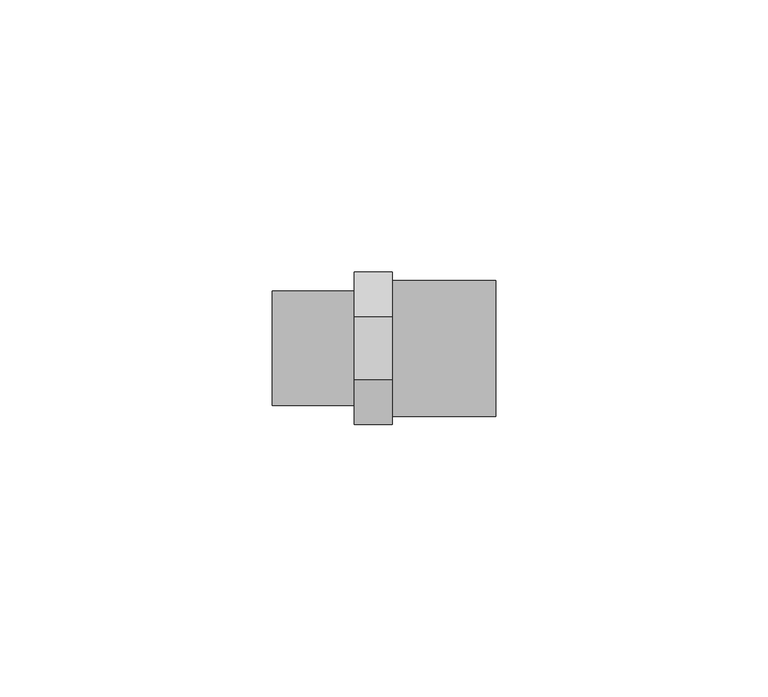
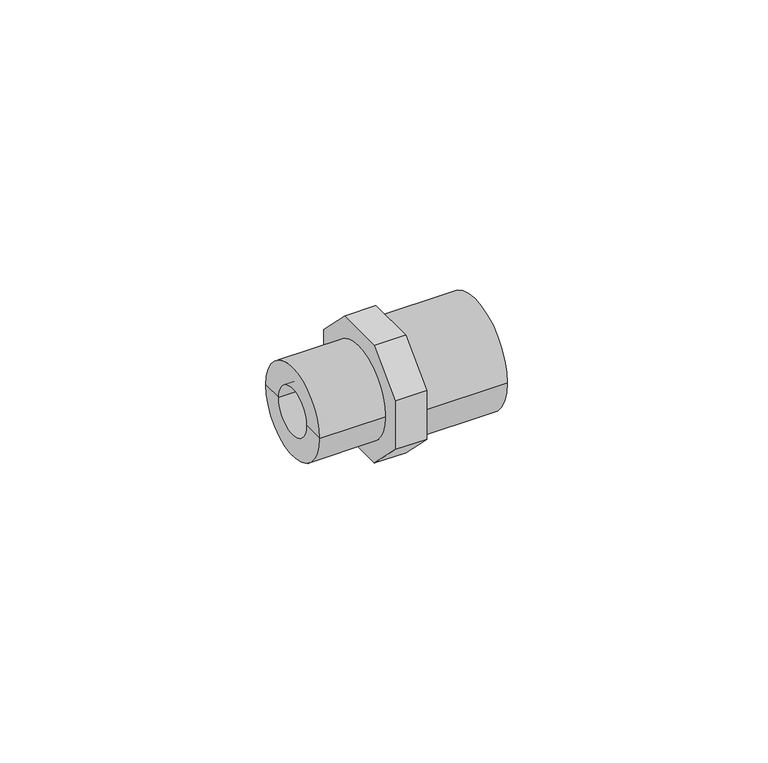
"""IFC4 building model written with IfcOpenShell, lengths in millimetres: pipe fitting geometry, Durapipe_PipeFitting_PVC_MaleThreadedAdaptors : 25 x 20 x G1⁄2."""

from ifc_helpers import new_model, si_unit, point, frame, origin, origin_2d, place, context, project, spatial, polyline, circle_curve, trimmed, segment, composite_curve, outline, extrude, source, transform, mapped, element, save
from ifc_brep_helpers import plane_surface, cylinder_surface, revolved_surface, advanced_brep


def pipe_fitting_63f056da(model_context):
    return source(origin(), model_context, "Body", "SolidModel", [
        extrude(outline(polyline([(14.0, 5.7989899), (14.0, -5.7989899), (5.7989899, -14.0), (-5.7989899, -14.0), (-14.0, -5.7989899), (-14.0, 5.7989899), (-5.7989899, 14.0), (5.7989899, 14.0), (14.0, 5.7989899)]), holes=[composite_curve([segment(trimmed(circle_curve(origin_2d(), 5.5), [point((5.5, 0.0))], [point((-5.5, 0.0))], True, "CARTESIAN"), True, "CONTINUOUS"), segment(trimmed(circle_curve(origin_2d(), 5.5), [point((-5.5, 0.0))], [point((5.5, 0.0))], True, "CARTESIAN"), True, "CONTINUOUS")], self_intersect=False)]), frame((-7.0, 0.0, 0.0), z_axis=(1.0, 0.0, 0.0), x_axis=(0.0, 1.0, 0.0)), (0.0, 0.0, 1.0), 7.0),
        advanced_brep(
        [(0.0, -12.5, 0.0), (0.0, 12.5, 0.0), (19.0, 12.5, 0.0), (19.0, -12.5, 0.0), (19.0, 10.0, 0.0), (19.0, -10.0, 0.0), (0.0, 0.0, 0.0), (3.0, 10.0, 0.0), (3.0, -10.0, 0.0), (3.0, 0.0, 0.0)],
        [
            (0, 1, circle_curve(frame((0.0, 0.0, 0.0), z_axis=(1.0, 0.0, 0.0), x_axis=(0.0, 1.0, 0.0)), 12.5)),
            (1, 2),
            (2, 3, circle_curve(frame((19.0, 0.0, 0.0), z_axis=(-1.0, 0.0, 0.0), x_axis=(0.0, 1.0, 0.0)), 12.5)),
            (3, 0),
            (1, 0, circle_curve(frame((0.0, 0.0, 0.0), z_axis=(1.0, 0.0, 0.0), x_axis=(0.0, 1.0, 0.0)), 12.5)),
            (3, 2, circle_curve(frame((19.0, 0.0, 0.0), z_axis=(-1.0, 0.0, 0.0), x_axis=(0.0, 1.0, 0.0)), 12.5)),
            (2, 4),
            (4, 5, circle_curve(frame((19.0, 0.0, 0.0), z_axis=(-1.0, 0.0, 0.0), x_axis=(0.0, 1.0, 0.0)), 10.0)),
            (5, 3),
            (5, 4, circle_curve(frame((19.0, 0.0, 0.0), z_axis=(-1.0, 0.0, 0.0), x_axis=(0.0, 1.0, 0.0)), 10.0)),
            (0, 6),
            (6, 1),
            (7, 8, circle_curve(frame((3.0, 0.0, 0.0), z_axis=(-1.0, 0.0, 0.0), x_axis=(0.0, 1.0, 0.0)), 10.0)),
            (8, 5),
            (4, 7),
            (8, 7, circle_curve(frame((3.0, 0.0, 0.0), z_axis=(-1.0, 0.0, 0.0), x_axis=(0.0, 1.0, 0.0)), 10.0)),
            (7, 9),
            (9, 8),
        ],
        [
            cylinder_surface(frame((420.4572068, 0.0, 0.0), z_axis=(-1.0, 0.0, 0.0), x_axis=(0.0, 1.0, 0.0)), 12.5),
            plane_surface(frame((19.0, 0.0, 0.0), z_axis=(1.0, 0.0, 0.0), x_axis=(0.0, 1.0, 0.0))),
            plane_surface(frame((0.0, 0.0, 0.0), z_axis=(-1.0, 0.0, 0.0), x_axis=(0.0, 1.0, 0.0))),
            revolved_surface(polyline([(3.0, 10.0, 0.0), (19.0, 10.0, 0.0)]), (32.5575137, 0.0, 0.0), (-1.0, 0.0, 0.0)),
            plane_surface(frame((3.0, 0.0, 0.0), z_axis=(1.0, 0.0, 0.0), x_axis=(0.0, 1.0, 0.0))),
        ],
        [
            (0, [[1, 2, 3, 4]]),
            (0, [[-2, 5, -4, 6]]),
            (1, [[-3, 7, 8, 9]]),
            (1, [[-6, -9, 10, -7]]),
            (2, [[-1, 11, 12]]),
            (2, [[-5, -12, -11]]),
            (3, [[13, 14, -8, 15]]),
            (3, [[16, -15, -10, -14]]),
            (4, [[-13, 17, 18]]),
            (4, [[-16, -18, -17]]),
        ],
    ),
        advanced_brep(
        [(-7.0, -5.5, 0.0), (-7.0, 5.5, 0.0), (-22.0, 5.5, 0.0), (-22.0, -5.5, 0.0), (-7.0, -10.5, 0.0), (-7.0, 10.5, 0.0), (-22.0, -10.5, 0.0), (-22.0, 10.5, 0.0)],
        [
            (0, 1, circle_curve(frame((-7.0, 0.0, 0.0), z_axis=(1.0, 0.0, 0.0), x_axis=(0.0, 1.0, 0.0)), 5.5)),
            (1, 2),
            (2, 3, circle_curve(frame((-22.0, 0.0, 0.0), z_axis=(-1.0, 0.0, 0.0), x_axis=(0.0, 1.0, 0.0)), 5.5)),
            (3, 0),
            (1, 0, circle_curve(frame((-7.0, 0.0, 0.0), z_axis=(1.0, 0.0, 0.0), x_axis=(0.0, 1.0, 0.0)), 5.5)),
            (3, 2, circle_curve(frame((-22.0, 0.0, 0.0), z_axis=(-1.0, 0.0, 0.0), x_axis=(0.0, 1.0, 0.0)), 5.5)),
            (4, 5, circle_curve(frame((-7.0, 0.0, 0.0), z_axis=(1.0, 0.0, 0.0), x_axis=(0.0, 1.0, 0.0)), 10.5)),
            (5, 1),
            (0, 4),
            (5, 4, circle_curve(frame((-7.0, 0.0, 0.0), z_axis=(1.0, 0.0, 0.0), x_axis=(0.0, 1.0, 0.0)), 10.5)),
            (6, 7, circle_curve(frame((-22.0, 0.0, 0.0), z_axis=(1.0, 0.0, 0.0), x_axis=(0.0, 1.0, 0.0)), 10.5)),
            (7, 5),
            (4, 6),
            (7, 6, circle_curve(frame((-22.0, 0.0, 0.0), z_axis=(1.0, 0.0, 0.0), x_axis=(0.0, 1.0, 0.0)), 10.5)),
            (2, 7),
            (6, 3),
        ],
        [
            revolved_surface(polyline([(-22.0, 5.5, 0.0), (-7.0, 5.5, 0.0)]), (-37.0, 0.0, 0.0), (-1.0, 0.0, 0.0)),
            plane_surface(frame((-7.0, 0.0, 0.0), z_axis=(1.0, 0.0, 0.0), x_axis=(0.0, 1.0, 0.0))),
            cylinder_surface(frame((-37.0, 0.0, 0.0), z_axis=(-1.0, 0.0, 0.0), x_axis=(0.0, 1.0, 0.0)), 10.5),
            plane_surface(frame((-22.0, 0.0, 0.0), z_axis=(-1.0, 0.0, 0.0), x_axis=(0.0, 1.0, 0.0))),
        ],
        [
            (0, [[1, 2, 3, 4]]),
            (0, [[5, -4, 6, -2]]),
            (1, [[7, 8, -1, 9]]),
            (1, [[10, -9, -5, -8]]),
            (2, [[11, 12, -7, 13]]),
            (2, [[14, -13, -10, -12]]),
            (3, [[-3, 15, -11, 16]]),
            (3, [[-6, -16, -14, -15]]),
        ],
    ),
    ])


if __name__ == "__main__":
    model = new_model("IFC4")
    model_context = context("Model", 3, world=origin())
    ifc_project = project(units=[si_unit("LENGTHUNIT", "METRE", prefix="MILLI")], contexts=[model_context])
    site = spatial("IfcSite", under=ifc_project)
    building = spatial("IfcBuilding", under=site)
    placement = place(None, origin())
    pipe_fitting_shape = pipe_fitting_63f056da(model_context)
    element("IfcPipeFitting", 1, ObjectType="Durapipe_PipeFitting_PVC_MaleThreadedAdaptors : 25 x 20 x G1⁄2", at=placement, inside=building, context=model_context, shape_type="MappedRepresentation", body=[
        mapped(pipe_fitting_shape, transform((0.0, 0.0, 0.0), x_axis=(1.0, 0.0, 0.0), y_axis=(0.0, 1.0, 0.0), z_axis=(0.0, 0.0, 1.0))),
    ])
    save(model, "model.ifc")
